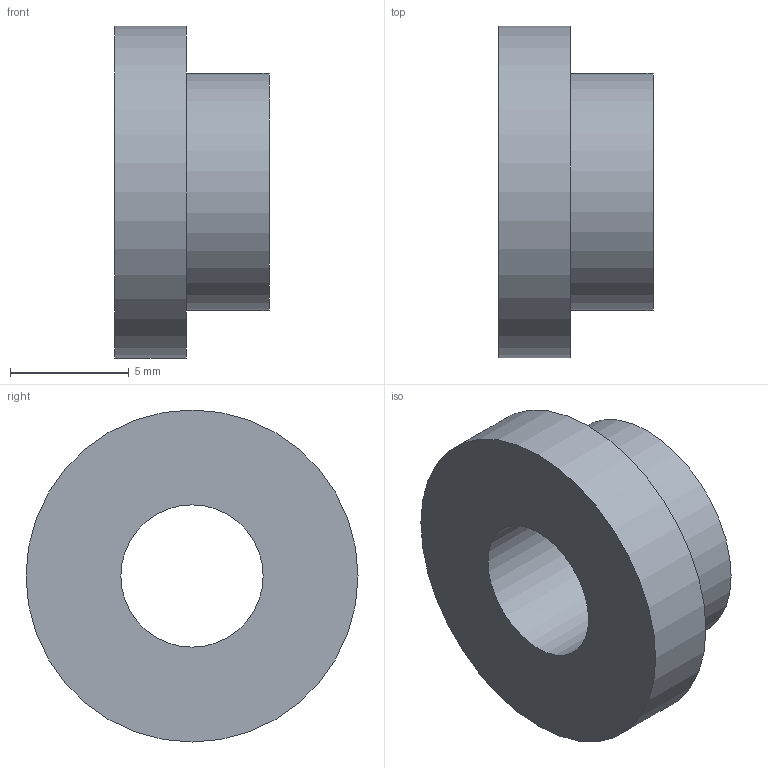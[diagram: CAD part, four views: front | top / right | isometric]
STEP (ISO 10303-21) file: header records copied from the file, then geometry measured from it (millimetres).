
FILE_DESCRIPTION(/* description */ ('STEP AP214'),/* implementation_level */ '2;1');
FILE_NAME(/* name */ 'Mounting Accessory GN 753.2-8-10-3-AE-NI',/* time_stamp */ '2024-12-09T14:01:20+01:00',/* author */ ('License CC BY-ND 4.0'),/* organization */ ('CADENAS'),/* preprocessor_version */ 'ST-DEVELOPER v19.3',/* originating_system */ 'PARTsolutions',/* authorisation */ ' ');
FILE_SCHEMA (('AUTOMOTIVE_DESIGN {1 0 10303 214 3 1 1}'));
Length unit declared in the file: millimetre
Products named in the file (1): Mounting Accessory GN 753.2-8-10-3-AE-NI
Bounding box: 6.5 x 14 x 14 mm (x, y, z)
Volume: 552.9 mm3; surface area: 615.8 mm2
Topology: 1 solids, 1 shells, 6 faces, 9 edges, 6 vertices
Faces by surface type: plane 3, cylinder 3
Full cylindrical faces by diameter (mm): 6 x1, 10 x1, 14 x1
Entity records: 158 total; most frequent: DIRECTION 26, CARTESIAN_POINT 19, AXIS2_PLACEMENT_3D 13, ORIENTED_EDGE 12, EDGE_LOOP 12, FACE_BOUND 12, EDGE_CURVE 6, VERTEX_POINT 6
